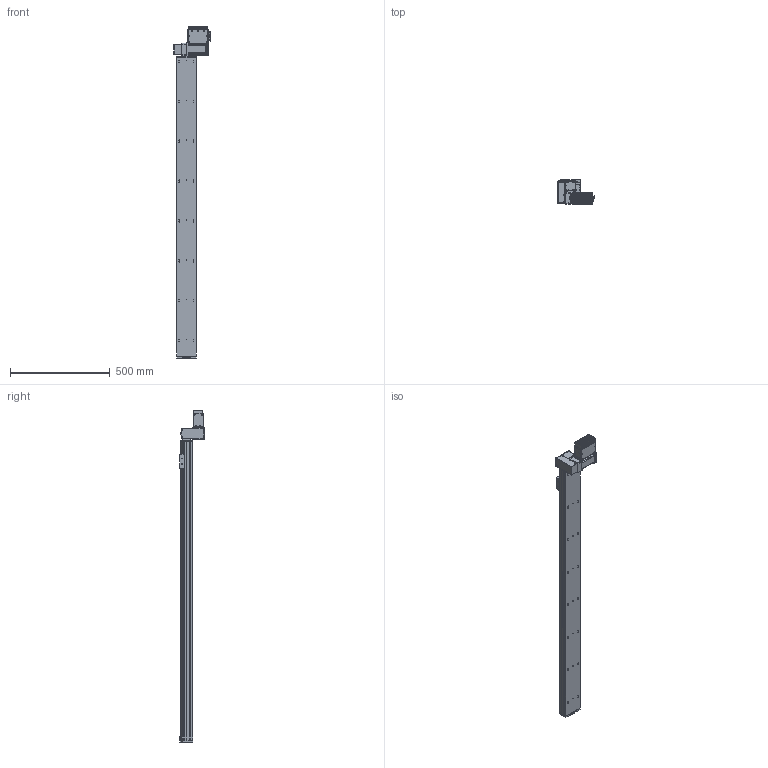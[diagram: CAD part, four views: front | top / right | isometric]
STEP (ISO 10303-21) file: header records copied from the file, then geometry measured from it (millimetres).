
FILE_DESCRIPTION (( 'STEP AP203' ), '1' );
FILE_NAME ('S10 TBN RH S1600.STEP', '2012-06-14T08:39:49', ( 'Conseil Régional Haute-Normandie' ), ( 'Conseil Régional Haute-Normandie' ), 'SwSTEP 2.0', 'SolidWorks 2010', '' );
FILE_SCHEMA (( 'CONFIG_CONTROL_DESIGN' ));
Length unit declared in the file: millimetre
Products named in the file (30): cache t皻e_Default; Plaque racord_Default; plaque de bout s10_Default; Colonnette_3; BU45 Carte d''axe A11_5; Connecteur rond D12 4cts_5; Sub D 9cts 90_X2_00B_X0__3; Radiateur profil_X2_00E9_X0_ 100x25_3; Cvis M5 L30_Default; vis M5 L12_Default; S10 TBN RH S1600; axe 1500; embout; palette tbn; cache t皻e axe_Default; renvoi LH_Default; Assem1_7; T_X2_00F4_X0_le contre le moteur_5; BU41 Carte Alimentation P05_3; Moteur 60BLDC90A_3; Couvercle_3; T_X2_00F4_X0_le fond_3; Connecteur rond D10 3cts_5; Colonnette ronde_3; T_X2_00F4_X0_le Arri_X2_00E8_X0_re_5; T_X2_00F4_X0_le lat_X2_00E9_X0_rale_5; Vis TF 3 torkx_1_1; Vis M5 L16-2_Default_1; vis M5 L5_Default; Vis TF 3 torkx
Assembly tree (69 placements, depth 3):
  S10 TBN RH S1600
    vis M5 L12_Default  x4
    Vis M5 L16-2_Default_1  x4
    Vis TF 3 torkx  x7
    axe 1500
    cache t皻e axe_Default
    Plaque racord_Default
    renvoi LH_Default
    Cvis M5 L30_Default  x2
    Assem1_7
      Sub D 9cts 90_X2_00B_X0__3
      Vis TF 3 torkx_1_1  x21
      T_X2_00F4_X0_le fond_3
      Colonnette_3  x2
      Connecteur rond D12 4cts_5
      T_X2_00F4_X0_le lat_X2_00E9_X0_rale_5  x2
      Radiateur profil_X2_00E9_X0_ 100x25_3
      Moteur 60BLDC90A_3
      Connecteur rond D10 3cts_5  x2
      T_X2_00F4_X0_le Arri_X2_00E8_X0_re_5
      BU41 Carte Alimentation P05_3
      Colonnette ronde_3
      T_X2_00F4_X0_le contre le moteur_5
      BU45 Carte d''axe A11_5
      Couvercle_3
    vis M5 L5_Default  x4
    palette tbn
    plaque de bout s10_Default
    embout
    cache t皻e_Default  x2
Bounding box: 189.8 x 124.75 x 1666.5 mm (x, y, z)
Volume: 8607800.8 mm3; surface area: 1026072 mm2
Topology: 68 solids, 68 shells, 2502 faces, 6214 edges, 4018 vertices
Faces by surface type: plane 1208, cylinder 1063, cone 188, bspline 40, torus 3
Entity records: 48928 total; most frequent: CARTESIAN_POINT 8779, DIRECTION 7871, ORIENTED_EDGE 7148, EDGE_CURVE 3574, AXIS2_PLACEMENT_3D 2921, VERTEX_POINT 2334, LINE 2029, VECTOR 2029
